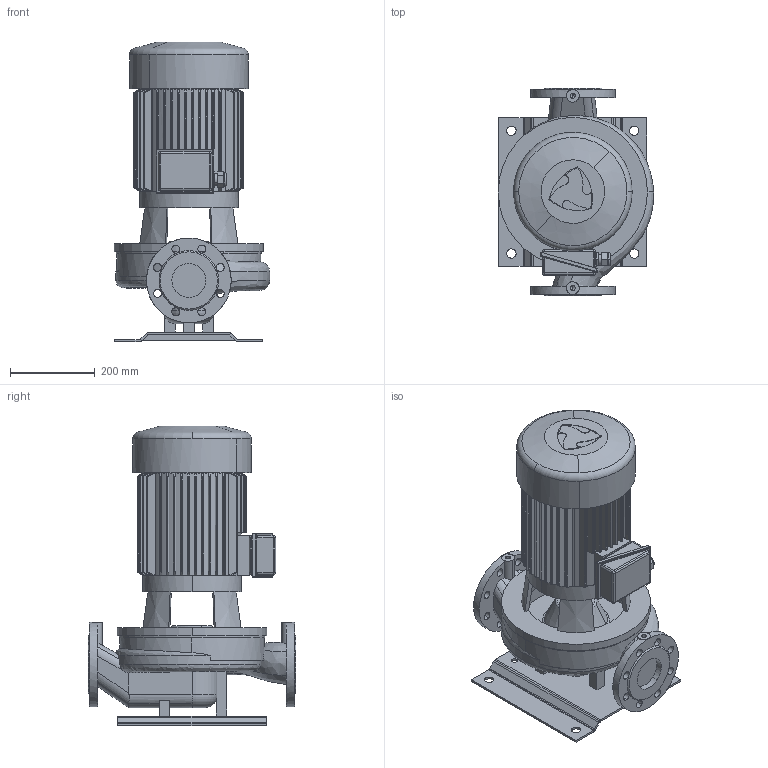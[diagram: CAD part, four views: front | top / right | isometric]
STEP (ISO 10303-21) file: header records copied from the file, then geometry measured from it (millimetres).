
FILE_DESCRIPTION(('STEP AP214'),'1');
FILE_NAME('export.stp','2018-05-29T07:45:10',(' '),(' '),'Spatial InterOp 3D',' ',' ');
FILE_SCHEMA(('AUTOMOTIVE_DESIGN { 1 0 10303 214 1 1 1 1 }'));
Length unit declared in the file: millimetre
Products named in the file (12): W_L80S4750_KP-133; V_TLL50S80S; V_PPL80S; P100496; P100495; P100342; V_MOKN133; RU_OKN_133; TSUOJA_OKN_132_133; KYTKOTELO_OKN_100_133; V_MKP-133-G2-F29; V_EKF29OKN132
Assembly tree (12 placements, depth 4):
  W_L80S4750_KP-133
    V_TLL50S80S
    V_PPL80S
    P100496
      P100495  x2
      P100342
    V_MKP-133-G2-F29
      V_MOKN133
        RU_OKN_133
        TSUOJA_OKN_132_133
        KYTKOTELO_OKN_100_133
      V_EKF29OKN132
Bounding box: 367 x 490 x 707.5 mm (x, y, z)
Volume: 32266003.5 mm3; surface area: 2223122.9 mm2
Topology: 9 solids, 10 shells, 776 faces, 2032 edges, 1268 vertices
Faces by surface type: cylinder 339, plane 271, cone 100, bspline 42, torus 12, sphere 12
Entity records: 42134 total; most frequent: CARTESIAN_POINT 10430, ORIENTED_EDGE 3996, DIRECTION 3702, STYLED_ITEM 2191, PRESENTATION_STYLE_ASSIGNMENT 2191, COLOUR_RGB 2191, EDGE_CURVE 1998, AXIS2_PLACEMENT_3D 1486
